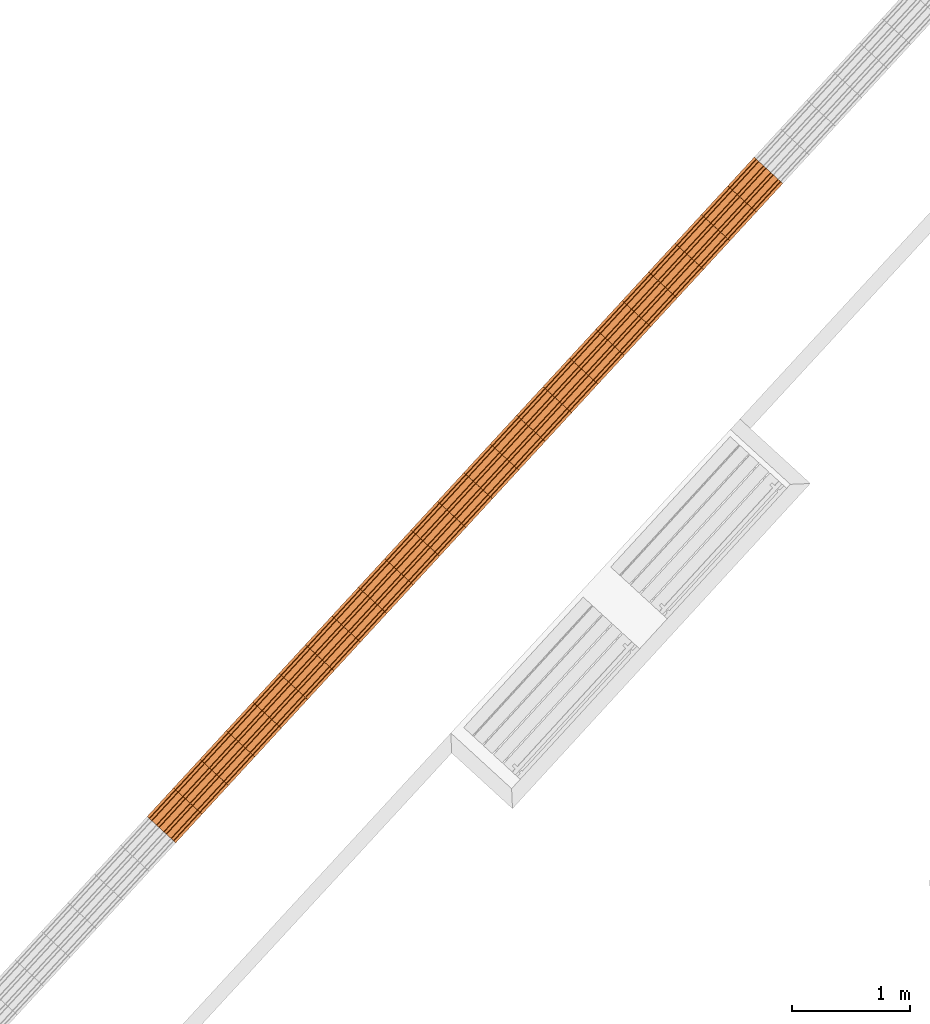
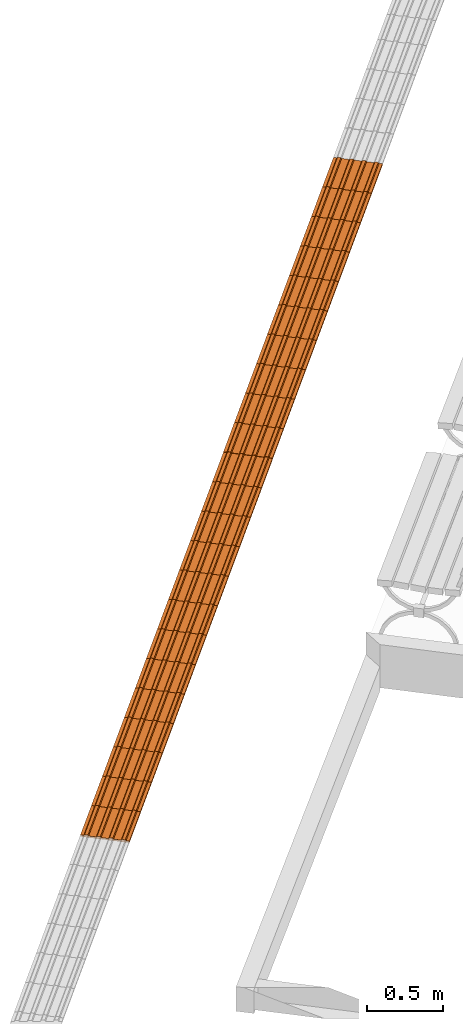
# One storey, part 170 of 237: 23 proxies.
"""IFC2X3 building model written with IfcOpenShell, lengths in millimetres."""

from ifc_helpers import new_model, entity, si_unit, converted_unit, derived_unit, money_unit, direction, frame, origin_with_axes, place, context, subcontext, project, spatial, open_shell, surface_model, source, transform, mapped, type_object, element, save


model = new_model("IFC2X3")

# Units and contexts
model_context = context("Model", 3, precision=0.01, world=origin_with_axes(), true_north=direction((0.0, 1.0)))
body_context = subcontext(model_context, "Body", "Model", "MODEL_VIEW")
ifc_project = project(units=[si_unit("LENGTHUNIT", "METRE", prefix="MILLI"), si_unit("AREAUNIT", "SQUARE_METRE"), si_unit("VOLUMEUNIT", "CUBIC_METRE"), converted_unit("PLANEANGLEUNIT", "DEGREE", entity("IfcPlaneAngleMeasure", 0.0174532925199), si_unit("PLANEANGLEUNIT", "RADIAN"), dimensions=[0, 0, 0, 0, 0, 0, 0]), money_unit("USD"), converted_unit("TIMEUNIT", "Year", entity("IfcTimeMeasure", 31556926.0), si_unit("TIMEUNIT", "SECOND"), dimensions=[0, 0, 1, 0, 0, 0, 0]), si_unit("MASSUNIT", "GRAM", prefix="KILO"), si_unit("THERMODYNAMICTEMPERATUREUNIT", "DEGREE_CELSIUS"), si_unit("LUMINOUSINTENSITYUNIT", "LUMEN"), si_unit("ENERGYUNIT", "JOULE", prefix="MEGA"), derived_unit("THERMALCONDUCTANCEUNIT", [(si_unit("POWERUNIT", "WATT"), 1), (si_unit("LENGTHUNIT", "METRE"), -1), (si_unit("THERMODYNAMICTEMPERATUREUNIT", "KELVIN"), -1)]), derived_unit("SPECIFICHEATCAPACITYUNIT", [(si_unit("ENERGYUNIT", "JOULE"), 1), (si_unit("MASSUNIT", "GRAM", prefix="KILO"), -1), (si_unit("THERMODYNAMICTEMPERATUREUNIT", "KELVIN"), -1)]), derived_unit("MASSDENSITYUNIT", [(si_unit("MASSUNIT", "GRAM", prefix="KILO"), 1), (si_unit("VOLUMEUNIT", "CUBIC_METRE"), -1)])], contexts=[model_context])

# Site, building, storey
site_placement = place(None, origin_with_axes())
site = spatial("IfcSite", under=ifc_project, at=site_placement, Name="Local", CompositionType="ELEMENT")
building_placement = place(site_placement, origin_with_axes())
building = spatial("IfcBuilding", under=site, at=building_placement, Name="Construção", CompositionType="ELEMENT")
storey_placement = place(building_placement, origin_with_axes())
storey = spatial("IfcBuildingStorey", under=building, at=storey_placement, Name="Pavimento Térreo", CompositionType="ELEMENT", Elevation=0.0)

# Proxies
building_element_proxy_type = type_object("IfcBuildingElementProxyType", Name="Piso Direcional 27", PredefinedType="NOTDEFINED")
shared_shape = source(origin_with_axes(), body_context, "Body", "SurfaceModel", [
    surface_model("IfcShellBasedSurfaceModel", [(0.126538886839, -47.258225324, 4.02653266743), (329.963703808, -47.258225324, -6.33901782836), (330.173108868, -41.665004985, 0.32435924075), (0.33594394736, -41.665004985, 10.6899097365)], [open_shell([[[0, 1, 2, 3]]])]),
    surface_model("IfcShellBasedSurfaceModel", [(329.544893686, -153.529411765, -19.6657719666), (329.544893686, 176.470588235, -19.6657719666), (329.963703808, 176.470588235, -6.33901782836), (329.963703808, 154.097706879, -6.33901782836), (330.173108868, 148.50448654, 0.32435924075), (330.173108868, 126.131605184, 0.32435924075), (329.963703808, 120.538384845, -6.33901782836), (329.963703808, 70.1994017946, -6.33901782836), (330.173108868, 64.6061814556, 0.32435924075), (330.173108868, 42.2333000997, 0.32435924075), (329.963703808, 36.6400797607, -6.33901782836), (329.963703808, -13.6989032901, -6.33901782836), (330.173108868, -19.2921236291, 0.32435924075), (330.173108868, -41.665004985, 0.32435924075), (329.963703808, -47.258225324, -6.33901782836), (329.963703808, -97.5972083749, -6.33901782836), (330.173108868, -103.190428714, 0.32435924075), (330.173108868, -125.56331007, 0.32435924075), (329.963703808, -131.156530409, -6.33901782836), (329.963703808, -153.529411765, -6.33901782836)], [open_shell([[[0, 1, 2, 3, 4, 5, 6, 7, 8, 9, 10, 11, 12, 13, 14, 15, 16, 17, 18, 19]]])]),
    surface_model("IfcShellBasedSurfaceModel", [(0.33594394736, -19.2921236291, 10.6899097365), (330.173108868, -19.2921236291, 0.32435924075), (329.963703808, -13.6989032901, -6.33901782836), (0.126538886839, -13.6989032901, 4.02653266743)], [open_shell([[[0, 1, 2, 3]]])]),
    surface_model("IfcShellBasedSurfaceModel", [(0.33594394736, -103.190428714, 10.6899097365), (330.173108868, -103.190428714, 0.32435924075), (329.963703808, -97.5972083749, -6.33901782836), (0.126538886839, -97.5972083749, 4.02653266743)], [open_shell([[[0, 1, 2, 3]]])]),
    surface_model("IfcShellBasedSurfaceModel", [(0.33594394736, 64.6061814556, 10.6899097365), (330.173108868, 64.6061814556, 0.32435924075), (329.963703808, 70.1994017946, -6.33901782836), (0.126538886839, 70.1994017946, 4.02653266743)], [open_shell([[[0, 1, 2, 3]]])]),
    surface_model("IfcShellBasedSurfaceModel", [(0.126538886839, 36.6400797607, 4.02653266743), (329.963703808, 36.6400797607, -6.33901782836), (330.173108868, 42.2333000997, 0.32435924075), (0.33594394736, 42.2333000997, 10.6899097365)], [open_shell([[[0, 1, 2, 3]]])]),
    surface_model("IfcShellBasedSurfaceModel", [(0.126538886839, -131.156530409, 4.02653266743), (329.963703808, -131.156530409, -6.33901782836), (330.173108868, -125.56331007, 0.32435924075), (0.33594394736, -125.56331007, 10.6899097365)], [open_shell([[[0, 1, 2, 3]]])]),
    surface_model("IfcShellBasedSurfaceModel", [(0.126538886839, 176.470588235, 4.02653266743), (0.126538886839, 154.097706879, 4.02653266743), (329.963703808, 154.097706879, -6.33901782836), (329.963703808, 176.470588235, -6.33901782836)], [open_shell([[[0, 1, 2, 3]]])]),
    surface_model("IfcShellBasedSurfaceModel", [(0.126538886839, 120.538384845, 4.02653266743), (329.963703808, 120.538384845, -6.33901782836), (330.173108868, 126.131605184, 0.32435924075), (0.33594394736, 126.131605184, 10.6899097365)], [open_shell([[[0, 1, 2, 3]]])]),
    surface_model("IfcShellBasedSurfaceModel", [(0.33594394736, 148.50448654, 10.6899097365), (330.173108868, 148.50448654, 0.32435924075), (329.963703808, 154.097706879, -6.33901782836), (0.126538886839, 154.097706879, 4.02653266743)], [open_shell([[[0, 1, 2, 3]]])]),
    surface_model("IfcShellBasedSurfaceModel", [(0.126538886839, 36.6400797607, 4.02653266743), (0.126538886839, -13.6989032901, 4.02653266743), (329.963703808, -13.6989032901, -6.33901782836), (329.963703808, 36.6400797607, -6.33901782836)], [open_shell([[[0, 1, 2, 3]]])]),
    surface_model("IfcShellBasedSurfaceModel", [(0.126538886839, 120.538384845, 4.02653266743), (0.126538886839, 70.1994017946, 4.02653266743), (329.963703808, 70.1994017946, -6.33901782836), (329.963703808, 120.538384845, -6.33901782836)], [open_shell([[[0, 1, 2, 3]]])]),
    surface_model("IfcShellBasedSurfaceModel", [(0.33594394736, 148.50448654, 10.6899097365), (0.33594394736, 126.131605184, 10.6899097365), (330.173108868, 126.131605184, 0.32435924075), (330.173108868, 148.50448654, 0.32435924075)], [open_shell([[[0, 1, 2, 3]]])]),
    surface_model("IfcShellBasedSurfaceModel", [(0.126538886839, 120.538384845, 4.02653266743), (0.33594394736, 126.131605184, 10.6899097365), (0.33594394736, 148.50448654, 10.6899097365), (0.126538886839, 154.097706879, 4.02653266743), (0.126538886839, 176.470588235, 4.02653266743), (-0.292271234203, 176.470588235, -9.30022147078), (-0.292271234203, -153.529411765, -9.30022147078), (0.126538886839, -153.529411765, 4.02653266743), (0.126538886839, -131.156530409, 4.02653266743), (0.33594394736, -125.56331007, 10.6899097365), (0.33594394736, -103.190428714, 10.6899097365), (0.126538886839, -97.5972083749, 4.02653266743), (0.126538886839, -47.258225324, 4.02653266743), (0.33594394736, -41.665004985, 10.6899097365), (0.33594394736, -19.2921236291, 10.6899097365), (0.126538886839, -13.6989032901, 4.02653266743), (0.126538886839, 36.6400797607, 4.02653266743), (0.33594394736, 42.2333000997, 10.6899097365), (0.33594394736, 64.6061814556, 10.6899097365), (0.126538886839, 70.1994017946, 4.02653266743)], [open_shell([[[0, 1, 2, 3, 4, 5, 6, 7, 8, 9, 10, 11, 12, 13, 14, 15, 16, 17, 18, 19]]])]),
    surface_model("IfcShellBasedSurfaceModel", [(330.173108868, -41.665004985, 0.32435924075), (330.173108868, -19.2921236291, 0.32435924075), (0.33594394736, -19.2921236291, 10.6899097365), (0.33594394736, -41.665004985, 10.6899097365)], [open_shell([[[0, 1, 2, 3]]])]),
    surface_model("IfcShellBasedSurfaceModel", [(0.126538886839, -47.258225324, 4.02653266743), (0.126538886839, -97.5972083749, 4.02653266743), (329.963703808, -97.5972083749, -6.33901782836), (329.963703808, -47.258225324, -6.33901782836)], [open_shell([[[0, 1, 2, 3]]])]),
    surface_model("IfcShellBasedSurfaceModel", [(330.173108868, 42.2333000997, 0.32435924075), (330.173108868, 64.6061814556, 0.32435924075), (0.33594394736, 64.6061814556, 10.6899097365), (0.33594394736, 42.2333000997, 10.6899097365)], [open_shell([[[0, 1, 2, 3]]])]),
    surface_model("IfcShellBasedSurfaceModel", [(330.173108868, -125.56331007, 0.32435924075), (330.173108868, -103.190428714, 0.32435924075), (0.33594394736, -103.190428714, 10.6899097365), (0.33594394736, -125.56331007, 10.6899097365)], [open_shell([[[0, 1, 2, 3]]])]),
    surface_model("IfcShellBasedSurfaceModel", [(329.544893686, 176.470588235, -19.6657719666), (-0.292271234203, 176.470588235, -9.30022147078), (0.126538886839, 176.470588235, 4.02653266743), (329.963703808, 176.470588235, -6.33901782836)], [open_shell([[[0, 1, 2, 3]]])]),
    surface_model("IfcShellBasedSurfaceModel", [(329.544893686, -153.529411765, -19.6657719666), (-0.292271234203, -153.529411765, -9.30022147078), (-0.292271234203, 176.470588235, -9.30022147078), (329.544893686, 176.470588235, -19.6657719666)], [open_shell([[[0, 1, 2, 3]]])]),
    surface_model("IfcShellBasedSurfaceModel", [(329.963703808, -153.529411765, -6.33901782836), (329.963703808, -131.156530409, -6.33901782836), (0.126538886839, -131.156530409, 4.02653266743), (0.126538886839, -153.529411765, 4.02653266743)], [open_shell([[[0, 1, 2, 3]]])]),
    surface_model("IfcShellBasedSurfaceModel", [(-0.292271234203, -153.529411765, -9.30022147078), (329.544893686, -153.529411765, -19.6657719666), (329.963703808, -153.529411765, -6.33901782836), (0.126538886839, -153.529411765, 4.02653266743)], [open_shell([[[0, 1, 2, 3]]])]),
])
for number, where, z_axis, x_axis, name in (
    (1, (45173.3997627, 33211.6237466, -1495.87407233), (0.0, 0.0, 1.0), (-0.677327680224, -0.735681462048, 0.0), "Objeto-0055"),
    (2, (44726.1376743, 32725.8287072, -1519.18445368), (0.0, 0.0, 1.0), (-0.677327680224, -0.735681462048, 0.0), "Objeto-0055"),
    (3, (44949.5455161, 32968.4837949, -1506.26033487), (0.0, 0.0, 1.0), (-0.677327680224, -0.735681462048, 0.0), "Objeto-0055"),
    (4, (46740.3794892, 34913.6034084, -1423.17023458), (0.0, 0.0, 1.0), (-0.677327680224, -0.735681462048, 0.0), "Objeto-0055"),
    (5, (46516.5252425, 34670.4634567, -1433.55649712), (0.0, 0.0, 1.0), (-0.677327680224, -0.735681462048, 0.0), "Objeto-0055"),
    (6, (46964.2337358, 35156.7433601, -1412.78397204), (0.0, 0.0, 1.0), (-0.677327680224, -0.735681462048, 0.0), "Objeto-0055"),
    (7, (46292.6709959, 34427.323505, -1443.94275965), (0.0, 0.0, 1.0), (-0.677327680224, -0.735681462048, 0.0), "Objeto-0055"),
    (8, (46068.8167493, 34184.1835533, -1454.32902219), (0.0, 0.0, 1.0), (-0.677327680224, -0.735681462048, 0.0), "Objeto-0055"),
    (9, (45844.9625026, 33941.0436016, -1464.71528472), (0.0, 0.0, 1.0), (-0.677327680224, -0.735681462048, 0.0), "Objeto-0055"),
    (10, (45621.108256, 33697.90365, -1475.10154726), (0.0, 0.0, 1.0), (-0.677327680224, -0.735681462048, 0.0), "Objeto-0055"),
    (11, (44278.4291811, 32239.5488038, -1539.95697875), (0.0, 0.0, 1.0), (-0.677327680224, -0.735681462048, 0.0), "Objeto-0055"),
    (12, (44054.5749344, 31996.4088521, -1550.34324129), (0.0, 0.0, 1.0), (-0.677327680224, -0.735681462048, 0.0), "Objeto-0055"),
    (13, (45397.2540094, 33454.7636983, -1485.4878098), (0.0, 0.0, 1.0), (-0.677327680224, -0.735681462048, 0.0), "Objeto-0055"),
    (14, (44502.2834277, 32482.6887555, -1529.57071621), (0.0, 0.0, 1.0), (-0.677327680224, -0.735681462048, 0.0), "Objeto-0055"),
    (15, (43830.7206878, 31753.2689004, -1560.72950382), (0.0, 0.0, 1.0), (-0.677327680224, -0.735681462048, 0.0), "Objeto-0055"),
    (16, (43606.8664412, 31510.1289487, -1571.11576636), (0.0, 0.0, 1.0), (-0.677327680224, -0.735681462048, 0.0), "Objeto-0055"),
    (17, (43383.0121946, 31266.988997, -1581.50202889), (0.0, 0.0, 1.0), (-0.677327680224, -0.735681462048, 0.0), "Objeto-0055"),
    (18, (43159.1579479, 31023.8490453, -1591.88829143), (0.0, 0.0, 1.0), (-0.677327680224, -0.735681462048, 0.0), "Objeto-0055"),
    (19, (42935.3037013, 30780.7090936, -1602.27455396), (0.0, 0.0, 1.0), (-0.677327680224, -0.735681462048, 0.0), "Objeto-0055"),
    (20, (42711.4494547, 30537.5691419, -1612.6608165), (0.0, 0.0, 1.0), (-0.677327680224, -0.735681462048, 0.0), "Objeto-0055"),
    (21, (42488.0416129, 30294.9140542, -1623.026367), (0.0, 0.0, 1.0), (-0.677327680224, -0.735681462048, 0.0), "Objeto-0055"),
    (22, (42264.1873663, 30051.7741025, -1633.41262954), (0.0, 0.0, 1.0), (-0.677327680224, -0.735681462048, 0.0), "Objeto-0055"),
    (23, (42040.3331196, 29808.6341508, -1643.79889207), (0.0, 0.0, 1.0), (-0.677327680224, -0.735681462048, 0.0), "Objeto-0055"),
):
    element("IfcBuildingElementProxy", number, at=place(storey_placement, frame(where, z_axis=z_axis, x_axis=x_axis)), inside=storey, type_object=building_element_proxy_type, Name=name, context=body_context, shape_type="MappedRepresentation", body=[
        mapped(shared_shape, transform((0.0, 0.0, 0.0))),
    ])

save(model, "model.ifc")
